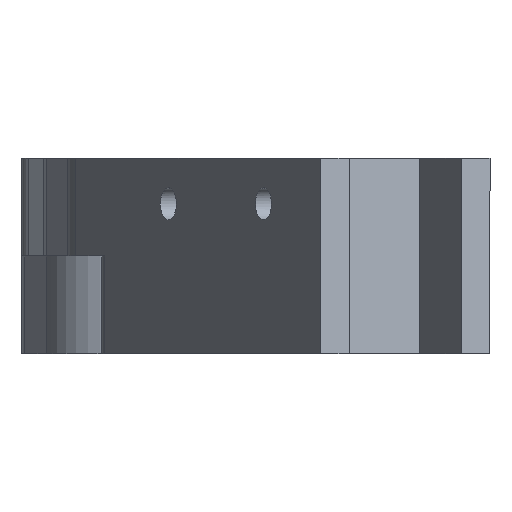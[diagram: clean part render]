
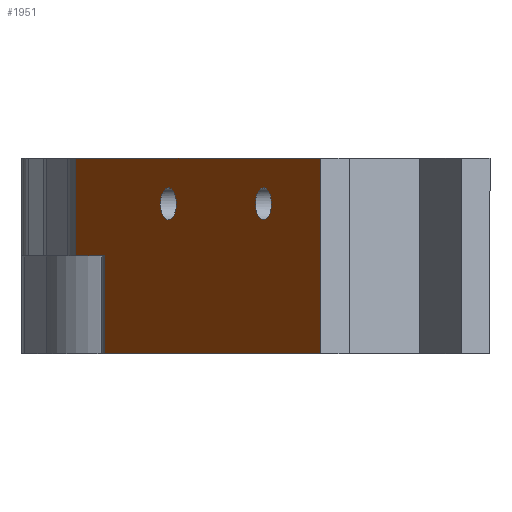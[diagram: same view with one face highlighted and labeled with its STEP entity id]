
A CAD part, left-side view. The second image highlights one B-rep face of the part: STEP entity #1951.
In plain terms, the highlighted planar face has unit normal (-0.5, 0.866, 0) as drawn and (0, 1, 0) by its records, which use the part's own axes.
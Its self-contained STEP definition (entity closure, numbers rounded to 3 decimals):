
#42 = VECTOR ( 'NONE', #2289, 1000. ) ;
#164 = ORIENTED_EDGE ( 'NONE', *, *, #3033, .F. ) ;
#174 = CARTESIAN_POINT ( 'NONE',  ( 35., 12.85, -8.95 ) ) ;
#198 = CARTESIAN_POINT ( 'NONE',  ( 75., 12.85, 12.85 ) ) ;
#222 = DIRECTION ( 'NONE',  ( 0., -1., 0. ) ) ;
#227 = CARTESIAN_POINT ( 'NONE',  ( 75., 12.85, -12.85 ) ) ;
#247 = LINE ( 'NONE', #1305, #1178 ) ;
#253 = CARTESIAN_POINT ( 'NONE',  ( 60., 12.85, -6.85 ) ) ;
#269 = VECTOR ( 'NONE', #1157, 1000. ) ;
#359 = CIRCLE ( 'NONE', #2125, 2.1 ) ;
#377 = ORIENTED_EDGE ( 'NONE', *, *, #594, .T. ) ;
#420 = EDGE_LOOP ( 'NONE', ( #1601 ) ) ;
#486 = LINE ( 'NONE', #198, #625 ) ;
#540 = LINE ( 'NONE', #1852, #2660 ) ;
#592 = CARTESIAN_POINT ( 'NONE',  ( 75., 12.85, -12.85 ) ) ;
#594 = EDGE_CURVE ( 'NONE', #1528, #3048, #247, .T. ) ;
#625 = VECTOR ( 'NONE', #1256, 1000. ) ;
#631 = DIRECTION ( 'NONE',  ( 0., -1., 0. ) ) ;
#695 = ORIENTED_EDGE ( 'NONE', *, *, #2873, .T. ) ;
#718 = VERTEX_POINT ( 'NONE', #1370 ) ;
#751 = CARTESIAN_POINT ( 'NONE',  ( 75., 12.85, 12.85 ) ) ;
#777 = EDGE_CURVE ( 'NONE', #3314, #3314, #359, .T. ) ;
#831 = CARTESIAN_POINT ( 'NONE',  ( 35., 12.85, -6.85 ) ) ;
#1052 = DIRECTION ( 'NONE',  ( -1., 0., 0. ) ) ;
#1157 = DIRECTION ( 'NONE',  ( -1., 0., 0. ) ) ;
#1178 = VECTOR ( 'NONE', #2347, 1000. ) ;
#1256 = DIRECTION ( 'NONE',  ( 0., 0., -1. ) ) ;
#1260 = CARTESIAN_POINT ( 'NONE',  ( 18.243, 12.85, 12.85 ) ) ;
#1276 = DIRECTION ( 'NONE',  ( 0., 0., -1. ) ) ;
#1293 = FACE_BOUND ( 'NONE', #3087, .T. ) ;
#1305 = CARTESIAN_POINT ( 'NONE',  ( 10.636, 12.85, 12.85 ) ) ;
#1311 = PLANE ( 'NONE',  #2573 ) ;
#1370 = CARTESIAN_POINT ( 'NONE',  ( 75., 12.85, 12.85 ) ) ;
#1413 = CARTESIAN_POINT ( 'NONE',  ( -10., 12.85, 0. ) ) ;
#1458 = EDGE_CURVE ( 'NONE', #2408, #1528, #1516, .T. ) ;
#1516 = LINE ( 'NONE', #227, #42 ) ;
#1528 = VERTEX_POINT ( 'NONE', #2094 ) ;
#1542 = ORIENTED_EDGE ( 'NONE', *, *, #3151, .T. ) ;
#1580 = VERTEX_POINT ( 'NONE', #1855 ) ;
#1595 = CARTESIAN_POINT ( 'NONE',  ( 60., 12.85, -8.95 ) ) ;
#1601 = ORIENTED_EDGE ( 'NONE', *, *, #2052, .T. ) ;
#1732 = EDGE_LOOP ( 'NONE', ( #2919, #377, #164, #1542, #2022, #695 ) ) ;
#1781 = FACE_OUTER_BOUND ( 'NONE', #1732, .T. ) ;
#1804 = AXIS2_PLACEMENT_3D ( 'NONE', #253, #222, #1276 ) ;
#1852 = CARTESIAN_POINT ( 'NONE',  ( 75., 12.85, 12.85 ) ) ;
#1855 = CARTESIAN_POINT ( 'NONE',  ( 18.243, 12.85, 12.85 ) ) ;
#1951 = ADVANCED_FACE ( 'NONE', ( #1293, #3390, #1781 ), #1311, .F. ) ;
#2022 = ORIENTED_EDGE ( 'NONE', *, *, #2652, .F. ) ;
#2052 = EDGE_CURVE ( 'NONE', #2104, #2104, #3287, .T. ) ;
#2068 = DIRECTION ( 'NONE',  ( 0., -1., 0. ) ) ;
#2094 = CARTESIAN_POINT ( 'NONE',  ( 10.636, 12.85, -12.85 ) ) ;
#2104 = VERTEX_POINT ( 'NONE', #1595 ) ;
#2125 = AXIS2_PLACEMENT_3D ( 'NONE', #831, #631, #2733 ) ;
#2215 = LINE ( 'NONE', #1413, #269 ) ;
#2247 = VECTOR ( 'NONE', #2797, 1000. ) ;
#2285 = LINE ( 'NONE', #1260, #2247 ) ;
#2289 = DIRECTION ( 'NONE',  ( -1., 0., 0. ) ) ;
#2321 = DIRECTION ( 'NONE',  ( 1., 0., 0. ) ) ;
#2339 = CARTESIAN_POINT ( 'NONE',  ( 18.243, 12.85, 0. ) ) ;
#2347 = DIRECTION ( 'NONE',  ( 0., 0., 1. ) ) ;
#2408 = VERTEX_POINT ( 'NONE', #592 ) ;
#2562 = VERTEX_POINT ( 'NONE', #2339 ) ;
#2573 = AXIS2_PLACEMENT_3D ( 'NONE', #751, #2068, #2321 ) ;
#2652 = EDGE_CURVE ( 'NONE', #718, #1580, #540, .T. ) ;
#2660 = VECTOR ( 'NONE', #1052, 1000. ) ;
#2728 = CARTESIAN_POINT ( 'NONE',  ( 10.636, 12.85, 0. ) ) ;
#2733 = DIRECTION ( 'NONE',  ( 0., 0., -1. ) ) ;
#2797 = DIRECTION ( 'NONE',  ( 0., 0., 1. ) ) ;
#2873 = EDGE_CURVE ( 'NONE', #718, #2408, #486, .T. ) ;
#2897 = ORIENTED_EDGE ( 'NONE', *, *, #777, .T. ) ;
#2919 = ORIENTED_EDGE ( 'NONE', *, *, #1458, .T. ) ;
#3033 = EDGE_CURVE ( 'NONE', #2562, #3048, #2215, .T. ) ;
#3048 = VERTEX_POINT ( 'NONE', #2728 ) ;
#3087 = EDGE_LOOP ( 'NONE', ( #2897 ) ) ;
#3151 = EDGE_CURVE ( 'NONE', #2562, #1580, #2285, .T. ) ;
#3287 = CIRCLE ( 'NONE', #1804, 2.1 ) ;
#3314 = VERTEX_POINT ( 'NONE', #174 ) ;
#3390 = FACE_BOUND ( 'NONE', #420, .T. ) ;
